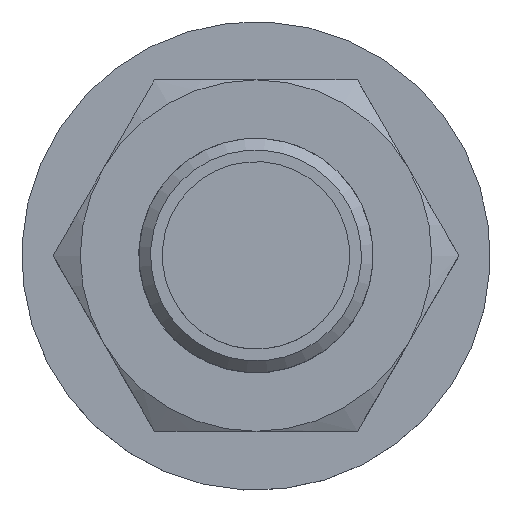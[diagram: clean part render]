
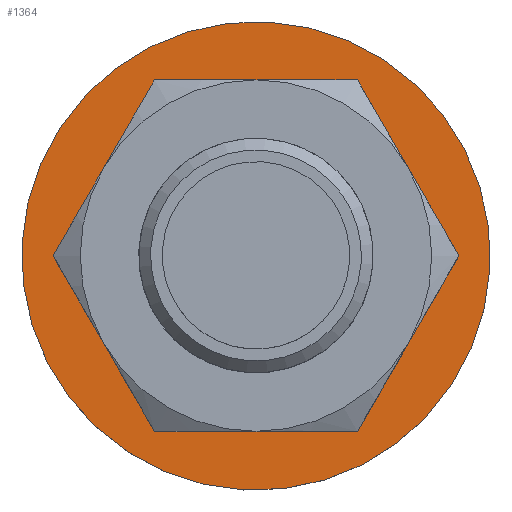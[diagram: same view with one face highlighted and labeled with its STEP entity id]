
A CAD part, top view. The second image highlights one B-rep face of the part: STEP entity #1364.
In plain terms, the highlighted planar face has unit normal (0, 0, 1).
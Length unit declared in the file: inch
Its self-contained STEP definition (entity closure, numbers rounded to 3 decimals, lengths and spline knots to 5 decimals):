
#236=PLANE('',#1475);
#273=FACE_BOUND('',#414,.T.);
#318=FACE_OUTER_BOUND('',#413,.T.);
#413=EDGE_LOOP('',(#957));
#414=EDGE_LOOP('',(#958,#959,#960,#961,#962,#963));
#510=CIRCLE('',#1447,0.46875);
#511=CIRCLE('',#1449,0.46875);
#512=CIRCLE('',#1451,0.46875);
#513=CIRCLE('',#1453,0.46875);
#514=CIRCLE('',#1455,0.46875);
#515=CIRCLE('',#1457,0.46875);
#517=CIRCLE('',#1473,0.625);
#573=VERTEX_POINT('',#1977);
#575=VERTEX_POINT('',#1982);
#577=VERTEX_POINT('',#1989);
#578=VERTEX_POINT('',#1998);
#581=VERTEX_POINT('',#2009);
#582=VERTEX_POINT('',#2018);
#592=VERTEX_POINT('',#2100);
#697=EDGE_CURVE('',#575,#573,#510,.T.);
#701=EDGE_CURVE('',#577,#575,#511,.T.);
#703=EDGE_CURVE('',#573,#578,#512,.T.);
#707=EDGE_CURVE('',#581,#577,#513,.T.);
#709=EDGE_CURVE('',#578,#582,#514,.T.);
#712=EDGE_CURVE('',#582,#581,#515,.T.);
#733=EDGE_CURVE('',#592,#592,#517,.T.);
#957=ORIENTED_EDGE('',*,*,#733,.F.);
#958=ORIENTED_EDGE('',*,*,#697,.T.);
#959=ORIENTED_EDGE('',*,*,#703,.T.);
#960=ORIENTED_EDGE('',*,*,#709,.T.);
#961=ORIENTED_EDGE('',*,*,#712,.T.);
#962=ORIENTED_EDGE('',*,*,#707,.T.);
#963=ORIENTED_EDGE('',*,*,#701,.T.);
#1364=ADVANCED_FACE('',(#318,#273),#236,.F.);
#1447=AXIS2_PLACEMENT_3D('',#1983,#1617,#1618);
#1449=AXIS2_PLACEMENT_3D('',#1996,#1621,#1622);
#1451=AXIS2_PLACEMENT_3D('',#2003,#1625,#1626);
#1453=AXIS2_PLACEMENT_3D('',#2016,#1629,#1630);
#1455=AXIS2_PLACEMENT_3D('',#2023,#1633,#1634);
#1457=AXIS2_PLACEMENT_3D('',#2032,#1637,#1638);
#1473=AXIS2_PLACEMENT_3D('',#2101,#1675,#1676);
#1475=AXIS2_PLACEMENT_3D('',#2104,#1679,#1680);
#1617=DIRECTION('center_axis',(0.,0.,
-1.));
#1618=DIRECTION('ref_axis',(-0.5,0.866,0.));
#1621=DIRECTION('center_axis',(0.,0.,
-1.));
#1622=DIRECTION('ref_axis',(-0.5,0.866,0.));
#1625=DIRECTION('center_axis',(0.,0.,
-1.));
#1626=DIRECTION('ref_axis',(-0.5,0.866,0.));
#1629=DIRECTION('center_axis',(0.,0.,
-1.));
#1630=DIRECTION('ref_axis',(-0.5,0.866,0.));
#1633=DIRECTION('center_axis',(0.,0.,
-1.));
#1634=DIRECTION('ref_axis',(-0.5,0.866,0.));
#1637=DIRECTION('center_axis',(0.,0.,
-1.));
#1638=DIRECTION('ref_axis',(-0.5,0.866,0.));
#1675=DIRECTION('center_axis',(0.,0.,
-1.));
#1676=DIRECTION('ref_axis',(-0.453,0.891,0.));
#1679=DIRECTION('center_axis',(0.,0.,
-1.));
#1680=DIRECTION('ref_axis',(0.891,0.453,0.));
#1977=CARTESIAN_POINT('',(0.,-0.46875,4.1));
#1982=CARTESIAN_POINT('',(0.40595,-0.23438,4.1));
#1983=CARTESIAN_POINT('Origin',(0.,0.,
4.1));
#1989=CARTESIAN_POINT('',(0.40595,0.23438,4.1));
#1996=CARTESIAN_POINT('Origin',(0.,0.,
4.1));
#1998=CARTESIAN_POINT('',(-0.40595,-0.23438,4.1));
#2003=CARTESIAN_POINT('Origin',(0.,0.,
4.1));
#2009=CARTESIAN_POINT('',(0.,0.46875,4.1));
#2016=CARTESIAN_POINT('Origin',(0.,0.,
4.1));
#2018=CARTESIAN_POINT('',(-0.40595,0.23438,4.1));
#2023=CARTESIAN_POINT('Origin',(0.,0.,
4.1));
#2032=CARTESIAN_POINT('Origin',(0.,0.,
4.1));
#2100=CARTESIAN_POINT('',(0.2832,-0.55716,4.1));
#2101=CARTESIAN_POINT('Origin',(0.,0.,
4.1));
#2104=CARTESIAN_POINT('Origin',(0.,0.,
4.1));
